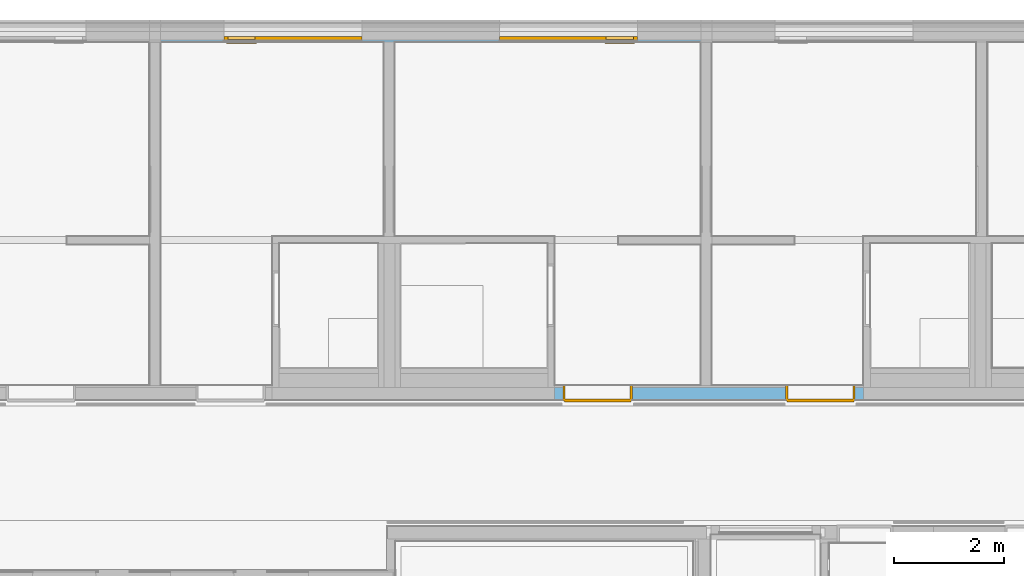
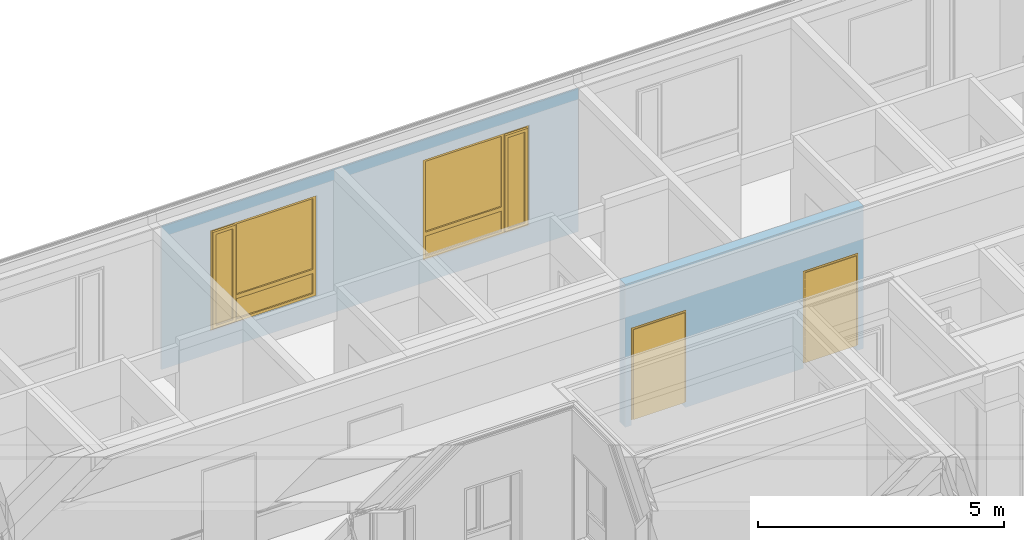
# One storey, part 144 of 222: 2 doors, 2 windows, 4 openings, plus 2 elements that do not belong to this part.
"""IFC4 building model written with IfcOpenShell, lengths in metres."""

from ifc_helpers import new_model, entity, si_unit, converted_unit, derived_unit, frame, frame_2d, origin, origin_with_axes, place, context, subcontext, project, spatial, polyline, rectangle, outline, extrude, closed_shell, open_shell, faceted_brep, surface_model, source, transform, mapped, material, type_object, element, fill, save


model = new_model("IFC4")

# Units and contexts
model_context = context("Model", 3, precision=1e-05, world=origin())
body_context = subcontext(model_context, "Body", "Model", "MODEL_VIEW")
ifc_project = project(units=[si_unit("LENGTHUNIT", "METRE"), si_unit("AREAUNIT", "SQUARE_METRE"), si_unit("VOLUMEUNIT", "CUBIC_METRE"), si_unit("MASSUNIT", "GRAM", prefix="KILO"), converted_unit("PLANEANGLEUNIT", "DEGREE", entity("IfcPlaneAngleMeasure", 0.0174532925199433), si_unit("PLANEANGLEUNIT", "RADIAN"), dimensions=[0, 0, 0, 0, 0, 0, 0]), derived_unit("THERMALTRANSMITTANCEUNIT", [(si_unit("POWERUNIT", "WATT"), 1), (si_unit("THERMODYNAMICTEMPERATUREUNIT", "KELVIN"), -1), (si_unit("LENGTHUNIT", "METRE"), -2)]), derived_unit("VOLUMETRICFLOWRATEUNIT", [(si_unit("LENGTHUNIT", "METRE"), 3), (converted_unit("TIMEUNIT", "hour", entity("IfcTimeMeasure", 3600.0), si_unit("TIMEUNIT", "SECOND"), dimensions=[0, 0, 1, 0, 0, 0, 0]), -1), (si_unit("LENGTHUNIT", "METRE"), -1)])], contexts=[model_context])

# Site, building, storey
site_placement = place(None, origin())
site = spatial("IfcSite", under=ifc_project, at=site_placement, Name="Psychiatrie Neubau Wunstorf", CompositionType="ELEMENT")
building_placement = place(site_placement, origin())
building = spatial("IfcBuilding", under=site, at=building_placement, Name="Neubau H2 Stationsgebäude", CompositionType="ELEMENT")
storey_placement = place(building_placement, frame((0.0, 0.0, 3.6)))
storey = spatial("IfcBuildingStorey", under=building, at=storey_placement, Name="H2 Ebene +1", CompositionType="ELEMENT", Elevation=3.6)

# Wall, openings, windows
ifc_material_1 = material(Name="WA-LB")
wall_1_placement = place(storey_placement, frame((86.1, 31.614, 0.0)))
wall_1 = element("IfcWall", 1, at=wall_1_placement, inside=storey, material=ifc_material_1, context=body_context, shape_type="SweptSolid", body=[
    extrude(rectangle(XDim=9.8, YDim=0.036, at=frame_2d((4.9, 0.018), x_axis=(1.0, 0.0))), origin_with_axes(), (0.0, 0.0, 1.0), 3.55),
])
opening_1_placement = place(wall_1_placement, frame((1.15, 0.0, 0.55), z_axis=(0.0, 1.0, 0.0), x_axis=(0.0, 0.0, 1.0)))
opening_1 = element("IfcOpeningElement", 2, at=opening_1_placement, cuts=wall_1, Name="Fensteröffnung", ObjectType="Opening", context=body_context, shape_type="SweptSolid", body=[
    extrude(outline(polyline([(2.5, 2.5), (2.5, 0.0), (0.0, 0.0), (0.0, 2.5), (2.5, 2.5)])), origin_with_axes(), (0.0, 0.0, 1.0), 0.036),
])
opening_2_placement = place(wall_1_placement, frame((6.15, 0.0, 0.55), z_axis=(0.0, 1.0, 0.0), x_axis=(0.0, 0.0, 1.0)))
opening_2 = element("IfcOpeningElement", 3, at=opening_2_placement, cuts=wall_1, Name="Fensteröffnung", ObjectType="Opening", context=body_context, shape_type="SweptSolid", body=[
    extrude(outline(polyline([(2.5, 2.5), (2.5, 0.0), (0.0, 0.0), (0.0, 2.5), (2.5, 2.5)])), origin_with_axes(), (0.0, 0.0, 1.0), 0.036),
])
shared_shape_1 = source(origin_with_axes(), body_context, "Body", "SurfaceModel", [
    surface_model("IfcShellBasedSurfaceModel", [(0.0, 0.0, 2.5), (0.07, 0.0, 2.5), (0.07, 0.0, 0.0), (0.0, 0.0, 0.0), (0.0, 0.0699999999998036, 0.0), (0.07, 0.0699999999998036, 0.0), (0.07, 0.0699999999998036, 2.5), (0.0, 0.0699999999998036, 2.5)], [closed_shell([[[0, 1, 2, 3]], [[4, 5, 6, 7]], [[3, 4, 7, 0]], [[2, 5, 4, 3]], [[1, 6, 5, 2]], [[0, 7, 6, 1]]], orient=[[False], [False], [False], [False], [False], [False]])]),
    surface_model("IfcShellBasedSurfaceModel", [(2.43, 0.0, 2.5), (2.5, 0.0, 2.5), (2.5, 0.0, 0.0), (2.43, 0.0, 0.0), (2.43, 0.0699999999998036, 0.0), (2.5, 0.0699999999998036, 0.0), (2.5, 0.0699999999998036, 2.5), (2.43, 0.0699999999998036, 2.5)], [closed_shell([[[0, 1, 2, 3]], [[4, 5, 6, 7]], [[3, 4, 7, 0]], [[2, 5, 4, 3]], [[1, 6, 5, 2]], [[0, 7, 6, 1]]], orient=[[False], [False], [False], [False], [False], [False]])]),
    surface_model("IfcShellBasedSurfaceModel", [(0.07, 0.0, 0.07), (2.43, 0.0, 0.07), (2.43, 0.0, 0.0), (0.07, 0.0, 0.0), (0.07, 0.0699999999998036, 0.0), (2.43, 0.0699999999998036, 0.0), (2.43, 0.0699999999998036, 0.07), (0.07, 0.0699999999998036, 0.07)], [closed_shell([[[0, 1, 2, 3]], [[4, 5, 6, 7]], [[3, 4, 7, 0]], [[2, 5, 4, 3]], [[1, 6, 5, 2]], [[0, 7, 6, 1]]], orient=[[False], [False], [False], [False], [False], [False]])]),
    surface_model("IfcShellBasedSurfaceModel", [(0.07, 0.0, 2.5), (2.43, 0.0, 2.5), (2.43, 0.0, 2.43), (0.07, 0.0, 2.43), (0.07, 0.0699999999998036, 2.43), (2.43, 0.0699999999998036, 2.43), (2.43, 0.0699999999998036, 2.5), (0.07, 0.0699999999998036, 2.5)], [closed_shell([[[0, 1, 2, 3]], [[4, 5, 6, 7]], [[3, 4, 7, 0]], [[2, 5, 4, 3]], [[1, 6, 5, 2]], [[0, 7, 6, 1]]], orient=[[False], [False], [False], [False], [False], [False]])]),
    surface_model("IfcShellBasedSurfaceModel", [(0.565714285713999, 0.0, 2.43), (0.635714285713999, 0.0, 2.43), (0.635714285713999, 0.0, 0.07), (0.565714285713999, 0.0, 0.07), (0.565714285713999, 0.0699999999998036, 0.07), (0.635714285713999, 0.0699999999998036, 0.07), (0.635714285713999, 0.0699999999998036, 2.43), (0.565714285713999, 0.0699999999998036, 2.43)], [closed_shell([[[0, 1, 2, 3]], [[4, 5, 6, 7]], [[3, 4, 7, 0]], [[2, 5, 4, 3]], [[1, 6, 5, 2]], [[0, 7, 6, 1]]], orient=[[False], [False], [False], [False], [False], [False]])]),
    surface_model("IfcShellBasedSurfaceModel", [(0.05, -0.05, 2.45), (0.12, -0.05, 2.45), (0.12, -0.05, 0.05), (0.05, -0.05, 0.05), (0.05, 0.0199999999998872, 0.05), (0.12, 0.0199999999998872, 0.05), (0.12, 0.0199999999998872, 2.45), (0.05, 0.0199999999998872, 2.45)], [closed_shell([[[0, 1, 2, 3]], [[4, 5, 6, 7]], [[3, 4, 7, 0]], [[2, 5, 4, 3]], [[1, 6, 5, 2]], [[0, 7, 6, 1]]], orient=[[False], [False], [False], [False], [False], [False]])]),
    surface_model("IfcShellBasedSurfaceModel", [(0.515714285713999, -0.05, 2.45), (0.585714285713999, -0.05, 2.45), (0.585714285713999, -0.05, 0.05), (0.515714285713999, -0.05, 0.05), (0.515714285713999, 0.0199999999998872, 0.05), (0.585714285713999, 0.0199999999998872, 0.05), (0.585714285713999, 0.0199999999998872, 2.45), (0.515714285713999, 0.0199999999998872, 2.45)], [closed_shell([[[0, 1, 2, 3]], [[4, 5, 6, 7]], [[3, 4, 7, 0]], [[2, 5, 4, 3]], [[1, 6, 5, 2]], [[0, 7, 6, 1]]], orient=[[False], [False], [False], [False], [False], [False]])]),
    surface_model("IfcShellBasedSurfaceModel", [(0.12, -0.05, 0.12), (0.515714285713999, -0.05, 0.12), (0.515714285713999, -0.05, 0.05), (0.12, -0.05, 0.05), (0.12, 0.0199999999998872, 0.05), (0.515714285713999, 0.0199999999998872, 0.05), (0.515714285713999, 0.0199999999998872, 0.12), (0.12, 0.0199999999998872, 0.12)], [closed_shell([[[0, 1, 2, 3]], [[4, 5, 6, 7]], [[3, 4, 7, 0]], [[2, 5, 4, 3]], [[1, 6, 5, 2]], [[0, 7, 6, 1]]], orient=[[False], [False], [False], [False], [False], [False]])]),
    surface_model("IfcShellBasedSurfaceModel", [(0.12, -0.05, 2.45), (0.515714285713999, -0.05, 2.45), (0.515714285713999, -0.05, 2.38), (0.12, -0.05, 2.38), (0.12, 0.0199999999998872, 2.38), (0.515714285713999, 0.0199999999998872, 2.38), (0.515714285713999, 0.0199999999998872, 2.45), (0.12, 0.0199999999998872, 2.45)], [closed_shell([[[0, 1, 2, 3]], [[4, 5, 6, 7]], [[3, 4, 7, 0]], [[2, 5, 4, 3]], [[1, 6, 5, 2]], [[0, 7, 6, 1]]], orient=[[False], [False], [False], [False], [False], [False]])]),
    surface_model("IfcShellBasedSurfaceModel", [(0.635714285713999, 0.0, 0.67), (2.43, 0.0, 0.67), (2.43, 0.0, 0.57), (0.635714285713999, 0.0, 0.57), (0.635714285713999, 0.0699999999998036, 0.57), (2.43, 0.0699999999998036, 0.57), (2.43, 0.0699999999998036, 0.67), (0.635714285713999, 0.0699999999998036, 0.67)], [closed_shell([[[0, 1, 2, 3]], [[4, 5, 6, 7]], [[3, 4, 7, 0]], [[2, 5, 4, 3]], [[1, 6, 5, 2]], [[0, 7, 6, 1]]], orient=[[False], [False], [False], [False], [False], [False]])]),
    surface_model("IfcShellBasedSurfaceModel", [(0.12, -0.0150000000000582, 0.12), (0.12, -0.0150000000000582, 2.38), (0.515714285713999, -0.0150000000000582, 2.38), (0.515714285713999, -0.0150000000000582, 0.12)], [open_shell([[[0, 1, 2, 3]]], orient=[[False]])]),
    surface_model("IfcShellBasedSurfaceModel", [(0.635714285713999, 0.0349999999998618, 0.07), (0.635714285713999, 0.0349999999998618, 0.57), (2.43, 0.0349999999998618, 0.57), (2.43, 0.0349999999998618, 0.07)], [open_shell([[[0, 1, 2, 3]]], orient=[[False]])]),
    surface_model("IfcShellBasedSurfaceModel", [(0.635714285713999, 0.0349999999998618, 0.67), (0.635714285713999, 0.0349999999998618, 2.43), (2.43, 0.0349999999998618, 2.43), (2.43, 0.0349999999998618, 0.67)], [open_shell([[[0, 1, 2, 3]]], orient=[[False]])]),
])
window_1_placement = place(opening_1_placement, frame((0.0, 0.0, 0.03), z_axis=(1.0, 0.0, 0.0), x_axis=(0.0, 1.0, 0.0)))
window_1 = element("IfcWindow", 4, at=window_1_placement, inside=storey, Name="Fenster", OverallHeight=2.5, OverallWidth=2.5, PartitioningType="USERDEFINED", PredefinedType="WINDOW", context=body_context, shape_type="MappedRepresentation", body=[
    mapped(shared_shape_1, transform((0.0, 0.0, 0.0), x_axis=(1.0, 0.0, 0.0), y_axis=(0.0, 1.0, 0.0), z_axis=(0.0, 0.0, 1.0), scale=1.0)),
])
fill(opening_1, window_1)
shared_shape_2 = source(origin_with_axes(), body_context, "Body", "SurfaceModel", [
    surface_model("IfcShellBasedSurfaceModel", [(2.5, 0.0, 2.5), (2.5, 0.0, 0.0), (2.43, 0.0, 0.0), (2.43, 0.0, 2.5), (2.5, 0.0699999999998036, 0.0), (2.5, 0.0699999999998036, 2.5), (2.43, 0.0699999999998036, 2.5), (2.43, 0.0699999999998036, 0.0)], [closed_shell([[[0, 1, 2, 3]], [[4, 5, 6, 7]], [[1, 0, 5, 4]], [[2, 1, 4, 7]], [[3, 2, 7, 6]], [[0, 3, 6, 5]]], orient=[[False], [False], [False], [False], [False], [False]])]),
    surface_model("IfcShellBasedSurfaceModel", [(0.07, 0.0, 2.5), (0.07, 0.0, 0.0), (0.0, 0.0, 0.0), (0.0, 0.0, 2.5), (0.07, 0.0699999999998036, 0.0), (0.07, 0.0699999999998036, 2.5), (0.0, 0.0699999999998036, 2.5), (0.0, 0.0699999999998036, 0.0)], [closed_shell([[[0, 1, 2, 3]], [[4, 5, 6, 7]], [[1, 0, 5, 4]], [[2, 1, 4, 7]], [[3, 2, 7, 6]], [[0, 3, 6, 5]]], orient=[[False], [False], [False], [False], [False], [False]])]),
    surface_model("IfcShellBasedSurfaceModel", [(2.43, 0.0, 0.07), (2.43, 0.0, 0.0), (0.07, 0.0, 0.0), (0.07, 0.0, 0.07), (2.43, 0.0699999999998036, 0.0), (2.43, 0.0699999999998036, 0.07), (0.07, 0.0699999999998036, 0.07), (0.07, 0.0699999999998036, 0.0)], [closed_shell([[[0, 1, 2, 3]], [[4, 5, 6, 7]], [[1, 0, 5, 4]], [[2, 1, 4, 7]], [[3, 2, 7, 6]], [[0, 3, 6, 5]]], orient=[[False], [False], [False], [False], [False], [False]])]),
    surface_model("IfcShellBasedSurfaceModel", [(2.43, 0.0, 2.5), (2.43, 0.0, 2.43), (0.07, 0.0, 2.43), (0.07, 0.0, 2.5), (2.43, 0.0699999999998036, 2.43), (2.43, 0.0699999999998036, 2.5), (0.07, 0.0699999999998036, 2.5), (0.07, 0.0699999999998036, 2.43)], [closed_shell([[[0, 1, 2, 3]], [[4, 5, 6, 7]], [[1, 0, 5, 4]], [[2, 1, 4, 7]], [[3, 2, 7, 6]], [[0, 3, 6, 5]]], orient=[[False], [False], [False], [False], [False], [False]])]),
    surface_model("IfcShellBasedSurfaceModel", [(1.934285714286, 0.0, 2.43), (1.934285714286, 0.0, 0.07), (1.864285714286, 0.0, 0.07), (1.864285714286, 0.0, 2.43), (1.934285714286, 0.0699999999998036, 0.07), (1.934285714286, 0.0699999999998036, 2.43), (1.864285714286, 0.0699999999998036, 2.43), (1.864285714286, 0.0699999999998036, 0.07)], [closed_shell([[[0, 1, 2, 3]], [[4, 5, 6, 7]], [[1, 0, 5, 4]], [[2, 1, 4, 7]], [[3, 2, 7, 6]], [[0, 3, 6, 5]]], orient=[[False], [False], [False], [False], [False], [False]])]),
    surface_model("IfcShellBasedSurfaceModel", [(2.45, -0.05, 2.45), (2.45, -0.05, 0.05), (2.38, -0.05, 0.05), (2.38, -0.05, 2.45), (2.45, 0.0199999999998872, 0.05), (2.45, 0.0199999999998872, 2.45), (2.38, 0.0199999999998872, 2.45), (2.38, 0.0199999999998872, 0.05)], [closed_shell([[[0, 1, 2, 3]], [[4, 5, 6, 7]], [[1, 0, 5, 4]], [[2, 1, 4, 7]], [[3, 2, 7, 6]], [[0, 3, 6, 5]]], orient=[[False], [False], [False], [False], [False], [False]])]),
    surface_model("IfcShellBasedSurfaceModel", [(1.984285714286, -0.05, 2.45), (1.984285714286, -0.05, 0.05), (1.914285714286, -0.05, 0.05), (1.914285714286, -0.05, 2.45), (1.984285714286, 0.0199999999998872, 0.05), (1.984285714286, 0.0199999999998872, 2.45), (1.914285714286, 0.0199999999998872, 2.45), (1.914285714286, 0.0199999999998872, 0.05)], [closed_shell([[[0, 1, 2, 3]], [[4, 5, 6, 7]], [[1, 0, 5, 4]], [[2, 1, 4, 7]], [[3, 2, 7, 6]], [[0, 3, 6, 5]]], orient=[[False], [False], [False], [False], [False], [False]])]),
    surface_model("IfcShellBasedSurfaceModel", [(2.38, -0.05, 0.12), (2.38, -0.05, 0.05), (1.984285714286, -0.05, 0.05), (1.984285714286, -0.05, 0.12), (2.38, 0.0199999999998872, 0.05), (2.38, 0.0199999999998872, 0.12), (1.984285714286, 0.0199999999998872, 0.12), (1.984285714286, 0.0199999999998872, 0.05)], [closed_shell([[[0, 1, 2, 3]], [[4, 5, 6, 7]], [[1, 0, 5, 4]], [[2, 1, 4, 7]], [[3, 2, 7, 6]], [[0, 3, 6, 5]]], orient=[[False], [False], [False], [False], [False], [False]])]),
    surface_model("IfcShellBasedSurfaceModel", [(2.38, -0.05, 2.45), (2.38, -0.05, 2.38), (1.984285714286, -0.05, 2.38), (1.984285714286, -0.05, 2.45), (2.38, 0.0199999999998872, 2.38), (2.38, 0.0199999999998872, 2.45), (1.984285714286, 0.0199999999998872, 2.45), (1.984285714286, 0.0199999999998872, 2.38)], [closed_shell([[[0, 1, 2, 3]], [[4, 5, 6, 7]], [[1, 0, 5, 4]], [[2, 1, 4, 7]], [[3, 2, 7, 6]], [[0, 3, 6, 5]]], orient=[[False], [False], [False], [False], [False], [False]])]),
    surface_model("IfcShellBasedSurfaceModel", [(1.864285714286, 0.0, 0.67), (1.864285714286, 0.0, 0.57), (0.07, 0.0, 0.57), (0.07, 0.0, 0.67), (1.864285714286, 0.0699999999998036, 0.57), (1.864285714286, 0.0699999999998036, 0.67), (0.07, 0.0699999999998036, 0.67), (0.07, 0.0699999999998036, 0.57)], [closed_shell([[[0, 1, 2, 3]], [[4, 5, 6, 7]], [[1, 0, 5, 4]], [[2, 1, 4, 7]], [[3, 2, 7, 6]], [[0, 3, 6, 5]]], orient=[[False], [False], [False], [False], [False], [False]])]),
    surface_model("IfcShellBasedSurfaceModel", [(2.38, -0.0150000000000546, 0.12), (1.984285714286, -0.0150000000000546, 0.12), (1.984285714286, -0.0150000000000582, 2.38), (2.38, -0.0150000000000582, 2.38)], [open_shell([[[0, 1, 2, 3]]], orient=[[False]])]),
    surface_model("IfcShellBasedSurfaceModel", [(1.864285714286, 0.0349999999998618, 0.07), (0.07, 0.0349999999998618, 0.07), (0.07, 0.0349999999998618, 0.57), (1.864285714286, 0.0349999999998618, 0.57)], [open_shell([[[0, 1, 2, 3]]], orient=[[False]])]),
    surface_model("IfcShellBasedSurfaceModel", [(1.864285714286, 0.0349999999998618, 0.67), (0.07, 0.0349999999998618, 0.67), (0.07, 0.0349999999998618, 2.43), (1.864285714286, 0.0349999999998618, 2.43)], [open_shell([[[0, 1, 2, 3]]], orient=[[False]])]),
])
window_2_placement = place(opening_2_placement, frame((0.0, 0.0, 0.03), z_axis=(1.0, 0.0, 0.0), x_axis=(0.0, 1.0, 0.0)))
window_2 = element("IfcWindow", 5, at=window_2_placement, inside=storey, Name="Fenster", OverallHeight=2.5, OverallWidth=2.5, PartitioningType="USERDEFINED", PredefinedType="WINDOW", context=body_context, shape_type="MappedRepresentation", body=[
    mapped(shared_shape_2, transform((0.0, 0.0, 0.0), x_axis=(1.0, 0.0, 0.0), y_axis=(0.0, 1.0, 0.0), z_axis=(0.0, 0.0, 1.0), scale=1.0)),
])
fill(opening_2, window_2)

# Wall, openings, doors
ifc_material_2 = material(Name="WI-HW 60")
wall_2_placement = place(storey_placement, frame((93.25, 25.1175, 0.0)))
wall_2 = element("IfcWall", 6, at=wall_2_placement, inside=storey, material=ifc_material_2, context=body_context, shape_type="SweptSolid", body=[
    extrude(rectangle(XDim=5.60000000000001, YDim=0.232, at=frame_2d((2.80000000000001, 0.116), x_axis=(1.0, 0.0))), origin_with_axes(), (0.0, 0.0, 1.0), 3.55),
])
opening_3_placement = place(wall_2_placement, frame((0.15, 0.0, 0.0), z_axis=(0.0, 1.0, 0.0), x_axis=(0.0, 0.0, 1.0)))
opening_3 = element("IfcOpeningElement", 7, at=opening_3_placement, cuts=wall_2, Name="Türöffnung", ObjectType="Opening", context=body_context, shape_type="SweptSolid", body=[
    extrude(outline(polyline([(2.41, 1.26), (2.41, 0.0), (0.0, 0.0), (0.0, 1.26), (2.41, 1.26)])), origin_with_axes(), (0.0, 0.0, 1.0), 0.232),
])
opening_4_placement = place(wall_2_placement, frame((4.19000000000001, 0.0, 0.0), z_axis=(0.0, 1.0, 0.0), x_axis=(0.0, 0.0, 1.0)))
opening_4 = element("IfcOpeningElement", 8, at=opening_4_placement, cuts=wall_2, Name="Türöffnung", ObjectType="Opening", context=body_context, shape_type="SweptSolid", body=[
    extrude(outline(polyline([(2.41, 1.26), (2.41, 0.0), (0.0, 0.0), (0.0, 1.26), (2.41, 1.26)])), origin_with_axes(), (0.0, 0.0, 1.0), 0.232000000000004),
])
ifc_material_3 = material(Name="TI-2F-UZ-D")
door_type_1 = type_object("IfcDoorType", Name="SMT", OperationType="DOUBLE_DOOR_SINGLE_SWING", ParameterTakesPrecedence=False, PredefinedType="DOOR")
shared_shape_3 = source(origin_with_axes(), body_context, "Body", "Brep", [
    faceted_brep([(0.0, -0.0150000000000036, 2.41), (0.04, -0.0150000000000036, 2.41), (0.04, -0.0150000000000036, 0.15), (0.0, -0.0150000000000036, 0.15), (0.0, 0.286999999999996, 0.15), (0.04, 0.286999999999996, 0.15), (0.04, 0.286999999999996, 2.41), (0.0, 0.286999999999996, 2.41)], [[[0, 1, 2, 3]], [[4, 5, 6, 7]], [[3, 4, 7, 0]], [[2, 5, 4, 3]], [[1, 6, 5, 2]], [[0, 7, 6, 1]]], orient=[[False], [False], [False], [False], [False], [False]]),
    faceted_brep([(0.0, -0.0150000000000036, 2.425), (0.0, -0.0150000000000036, 0.15), (-0.015, -0.0150000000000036, 0.15), (-0.015, -0.0150000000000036, 2.425), (0.0, 0.0, 0.15), (0.0, 0.0, 2.425), (-0.015, 0.0, 2.425), (-0.015, 0.0, 0.15)], [[[0, 1, 2, 3]], [[4, 5, 6, 7]], [[1, 0, 5, 4]], [[2, 1, 4, 7]], [[3, 2, 7, 6]], [[0, 3, 6, 5]]], orient=[[False], [False], [False], [False], [False], [False]]),
    faceted_brep([(0.0, 0.271999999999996, 2.425), (0.0, 0.271999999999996, 0.15), (-0.015, 0.271999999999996, 0.15), (-0.015, 0.271999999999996, 2.425), (0.0, 0.286999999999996, 0.15), (0.0, 0.286999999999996, 2.425), (-0.015, 0.286999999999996, 2.425), (-0.015, 0.286999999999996, 0.15)], [[[0, 1, 2, 3]], [[4, 5, 6, 7]], [[1, 0, 5, 4]], [[2, 1, 4, 7]], [[3, 2, 7, 6]], [[0, 3, 6, 5]]], orient=[[False], [False], [False], [False], [False], [False]]),
    faceted_brep([(1.22, -0.0150000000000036, 2.41), (1.26, -0.0150000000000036, 2.41), (1.26, -0.0150000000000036, 0.15), (1.22, -0.0150000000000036, 0.15), (1.22, 0.286999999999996, 0.15), (1.26, 0.286999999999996, 0.15), (1.26, 0.286999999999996, 2.41), (1.22, 0.286999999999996, 2.41)], [[[0, 1, 2, 3]], [[4, 5, 6, 7]], [[3, 4, 7, 0]], [[2, 5, 4, 3]], [[1, 6, 5, 2]], [[0, 7, 6, 1]]], orient=[[False], [False], [False], [False], [False], [False]]),
    faceted_brep([(1.26, -0.0150000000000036, 2.425), (1.275, -0.0150000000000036, 2.425), (1.275, -0.0150000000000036, 0.15), (1.26, -0.0150000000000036, 0.15), (1.26, 0.0, 0.15), (1.275, 0.0, 0.15), (1.275, 0.0, 2.425), (1.26, 0.0, 2.425)], [[[0, 1, 2, 3]], [[4, 5, 6, 7]], [[3, 4, 7, 0]], [[2, 5, 4, 3]], [[1, 6, 5, 2]], [[0, 7, 6, 1]]], orient=[[False], [False], [False], [False], [False], [False]]),
    faceted_brep([(1.26, 0.271999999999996, 2.425), (1.275, 0.271999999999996, 2.425), (1.275, 0.271999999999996, 0.15), (1.26, 0.271999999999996, 0.15), (1.26, 0.286999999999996, 0.15), (1.275, 0.286999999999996, 0.15), (1.275, 0.286999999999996, 2.425), (1.26, 0.286999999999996, 2.425)], [[[0, 1, 2, 3]], [[4, 5, 6, 7]], [[3, 4, 7, 0]], [[2, 5, 4, 3]], [[1, 6, 5, 2]], [[0, 7, 6, 1]]], orient=[[False], [False], [False], [False], [False], [False]]),
    faceted_brep([(0.04, -0.0150000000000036, 2.41), (1.22, -0.0150000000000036, 2.41), (1.22, -0.0150000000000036, 2.37), (0.04, -0.0150000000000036, 2.37), (0.04, 0.286999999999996, 2.37), (1.22, 0.286999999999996, 2.37), (1.22, 0.286999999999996, 2.41), (0.04, 0.286999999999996, 2.41)], [[[0, 1, 2, 3]], [[4, 5, 6, 7]], [[3, 4, 7, 0]], [[2, 5, 4, 3]], [[1, 6, 5, 2]], [[0, 7, 6, 1]]], orient=[[False], [False], [False], [False], [False], [False]]),
    faceted_brep([(0.0, -0.0150000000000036, 2.425), (1.26, -0.0150000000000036, 2.425), (1.26, -0.0150000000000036, 2.41), (0.0, -0.0150000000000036, 2.41), (0.0, 0.0, 2.41), (1.26, 0.0, 2.41), (1.26, 0.0, 2.425), (0.0, 0.0, 2.425)], [[[0, 1, 2, 3]], [[4, 5, 6, 7]], [[3, 4, 7, 0]], [[2, 5, 4, 3]], [[1, 6, 5, 2]], [[0, 7, 6, 1]]], orient=[[False], [False], [False], [False], [False], [False]]),
    faceted_brep([(0.0, 0.271999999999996, 2.425), (1.26, 0.271999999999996, 2.425), (1.26, 0.271999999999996, 2.41), (0.0, 0.271999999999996, 2.41), (0.0, 0.286999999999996, 2.41), (1.26, 0.286999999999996, 2.41), (1.26, 0.286999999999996, 2.425), (0.0, 0.286999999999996, 2.425)], [[[0, 1, 2, 3]], [[4, 5, 6, 7]], [[3, 4, 7, 0]], [[2, 5, 4, 3]], [[1, 6, 5, 2]], [[0, 7, 6, 1]]], orient=[[False], [False], [False], [False], [False], [False]]),
    faceted_brep([(0.025, 0.251999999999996, 2.385), (0.925, 0.251999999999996, 2.385), (0.925, 0.251999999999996, 0.15), (0.025, 0.251999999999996, 0.15), (0.025, 0.301999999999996, 0.15), (0.925, 0.301999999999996, 0.15), (0.925, 0.301999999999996, 2.385), (0.025, 0.301999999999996, 2.385)], [[[0, 1, 2, 3]], [[4, 5, 6, 7]], [[3, 4, 7, 0]], [[2, 5, 4, 3]], [[1, 6, 5, 2]], [[0, 7, 6, 1]]], orient=[[False], [False], [False], [False], [False], [False]]),
    faceted_brep([(0.926, 0.251999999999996, 2.385), (1.235, 0.251999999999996, 2.385), (1.235, 0.251999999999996, 0.15), (0.926, 0.251999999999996, 0.15), (0.926, 0.301999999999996, 0.15), (1.235, 0.301999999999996, 0.15), (1.235, 0.301999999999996, 2.385), (0.926, 0.301999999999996, 2.385)], [[[0, 1, 2, 3]], [[4, 5, 6, 7]], [[3, 4, 7, 0]], [[2, 5, 4, 3]], [[1, 6, 5, 2]], [[0, 7, 6, 1]]], orient=[[False], [False], [False], [False], [False], [False]]),
])
door_1_placement = place(opening_3_placement, frame((0.0, 1.26, 0.271999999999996), z_axis=(1.0, 0.0, 0.0), x_axis=(0.0, -1.0, 0.0)))
door_1 = element("IfcDoor", 9, at=door_1_placement, inside=storey, type_object=door_type_1, material=ifc_material_3, Name="SMT", OverallHeight=2.41, OverallWidth=1.26, context=body_context, shape_type="MappedRepresentation", body=[
    mapped(shared_shape_3, transform((0.0, 0.0, 0.0), x_axis=(1.0, 0.0, 0.0), y_axis=(0.0, 1.0, 0.0), z_axis=(0.0, 0.0, 1.0), scale=1.0)),
])
fill(opening_3, door_1)
ifc_material_4 = material(Name="TI-2F-UZ-D")
door_type_2 = type_object("IfcDoorType", Name="SMT", OperationType="DOUBLE_DOOR_SINGLE_SWING", ParameterTakesPrecedence=False, PredefinedType="DOOR")
shared_shape_4 = source(origin_with_axes(), body_context, "Body", "Brep", [
    faceted_brep([(1.26, -0.0150000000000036, 2.41), (1.26, -0.0150000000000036, 0.15), (1.22, -0.0150000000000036, 0.15), (1.22, -0.0150000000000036, 2.41), (1.26, 0.287, 0.15), (1.26, 0.287, 2.41), (1.22, 0.287, 2.41), (1.22, 0.287, 0.15)], [[[0, 1, 2, 3]], [[4, 5, 6, 7]], [[1, 0, 5, 4]], [[2, 1, 4, 7]], [[3, 2, 7, 6]], [[0, 3, 6, 5]]], orient=[[False], [False], [False], [False], [False], [False]]),
    faceted_brep([(1.26, -0.0150000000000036, 2.425), (1.275, -0.0150000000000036, 2.425), (1.275, -0.0150000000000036, 0.15), (1.26, -0.0150000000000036, 0.15), (1.26, 0.0, 0.15), (1.275, 0.0, 0.15), (1.275, 0.0, 2.425), (1.26, 0.0, 2.425)], [[[0, 1, 2, 3]], [[4, 5, 6, 7]], [[3, 4, 7, 0]], [[2, 5, 4, 3]], [[1, 6, 5, 2]], [[0, 7, 6, 1]]], orient=[[False], [False], [False], [False], [False], [False]]),
    faceted_brep([(1.26, 0.272, 2.425), (1.275, 0.272, 2.425), (1.275, 0.272, 0.15), (1.26, 0.272, 0.15), (1.26, 0.287, 0.15), (1.275, 0.287, 0.15), (1.275, 0.287, 2.425), (1.26, 0.287, 2.425)], [[[0, 1, 2, 3]], [[4, 5, 6, 7]], [[3, 4, 7, 0]], [[2, 5, 4, 3]], [[1, 6, 5, 2]], [[0, 7, 6, 1]]], orient=[[False], [False], [False], [False], [False], [False]]),
    faceted_brep([(0.04, -0.0150000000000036, 2.41), (0.04, -0.0150000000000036, 0.15), (0.0, -0.0150000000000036, 0.15), (0.0, -0.0150000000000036, 2.41), (0.04, 0.287, 0.15), (0.04, 0.287, 2.41), (0.0, 0.287, 2.41), (0.0, 0.287, 0.15)], [[[0, 1, 2, 3]], [[4, 5, 6, 7]], [[1, 0, 5, 4]], [[2, 1, 4, 7]], [[3, 2, 7, 6]], [[0, 3, 6, 5]]], orient=[[False], [False], [False], [False], [False], [False]]),
    faceted_brep([(0.0, -0.0150000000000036, 2.425), (0.0, -0.0150000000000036, 0.15), (-0.015, -0.0150000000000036, 0.15), (-0.015, -0.0150000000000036, 2.425), (0.0, 0.0, 0.15), (0.0, 0.0, 2.425), (-0.015, 0.0, 2.425), (-0.015, 0.0, 0.15)], [[[0, 1, 2, 3]], [[4, 5, 6, 7]], [[1, 0, 5, 4]], [[2, 1, 4, 7]], [[3, 2, 7, 6]], [[0, 3, 6, 5]]], orient=[[False], [False], [False], [False], [False], [False]]),
    faceted_brep([(0.0, 0.272, 2.425), (0.0, 0.272, 0.15), (-0.015, 0.272, 0.15), (-0.015, 0.272, 2.425), (0.0, 0.287, 0.15), (0.0, 0.287, 2.425), (-0.015, 0.287, 2.425), (-0.015, 0.287, 0.15)], [[[0, 1, 2, 3]], [[4, 5, 6, 7]], [[1, 0, 5, 4]], [[2, 1, 4, 7]], [[3, 2, 7, 6]], [[0, 3, 6, 5]]], orient=[[False], [False], [False], [False], [False], [False]]),
    faceted_brep([(1.22, -0.0150000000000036, 2.41), (1.22, -0.0150000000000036, 2.37), (0.04, -0.0150000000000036, 2.37), (0.04, -0.0150000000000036, 2.41), (1.22, 0.287, 2.37), (1.22, 0.287, 2.41), (0.04, 0.287, 2.41), (0.04, 0.287, 2.37)], [[[0, 1, 2, 3]], [[4, 5, 6, 7]], [[1, 0, 5, 4]], [[2, 1, 4, 7]], [[3, 2, 7, 6]], [[0, 3, 6, 5]]], orient=[[False], [False], [False], [False], [False], [False]]),
    faceted_brep([(1.26, -0.0150000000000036, 2.425), (1.26, -0.0150000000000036, 2.41), (0.0, -0.0150000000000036, 2.41), (0.0, -0.0150000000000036, 2.425), (1.26, 0.0, 2.41), (1.26, 0.0, 2.425), (0.0, 0.0, 2.425), (0.0, 0.0, 2.41)], [[[0, 1, 2, 3]], [[4, 5, 6, 7]], [[1, 0, 5, 4]], [[2, 1, 4, 7]], [[3, 2, 7, 6]], [[0, 3, 6, 5]]], orient=[[False], [False], [False], [False], [False], [False]]),
    faceted_brep([(1.26, 0.272, 2.425), (1.26, 0.272, 2.41), (0.0, 0.272, 2.41), (0.0, 0.272, 2.425), (1.26, 0.287, 2.41), (1.26, 0.287, 2.425), (0.0, 0.287, 2.425), (0.0, 0.287, 2.41)], [[[0, 1, 2, 3]], [[4, 5, 6, 7]], [[1, 0, 5, 4]], [[2, 1, 4, 7]], [[3, 2, 7, 6]], [[0, 3, 6, 5]]], orient=[[False], [False], [False], [False], [False], [False]]),
    faceted_brep([(1.235, 0.252, 2.385), (1.235, 0.252, 0.15), (0.335, 0.252, 0.15), (0.335, 0.252, 2.385), (1.235, 0.302, 0.15), (1.235, 0.302, 2.385), (0.335, 0.302, 2.385), (0.335, 0.302, 0.15)], [[[0, 1, 2, 3]], [[4, 5, 6, 7]], [[1, 0, 5, 4]], [[2, 1, 4, 7]], [[3, 2, 7, 6]], [[0, 3, 6, 5]]], orient=[[False], [False], [False], [False], [False], [False]]),
    faceted_brep([(0.334, 0.252, 2.385), (0.334, 0.252, 0.15), (0.025, 0.252, 0.15), (0.025, 0.252, 2.385), (0.334, 0.302, 0.15), (0.334, 0.302, 2.385), (0.025, 0.302, 2.385), (0.025, 0.302, 0.15)], [[[0, 1, 2, 3]], [[4, 5, 6, 7]], [[1, 0, 5, 4]], [[2, 1, 4, 7]], [[3, 2, 7, 6]], [[0, 3, 6, 5]]], orient=[[False], [False], [False], [False], [False], [False]]),
])
door_2_placement = place(opening_4_placement, frame((0.0, 1.26, 0.272), z_axis=(1.0, 0.0, 0.0), x_axis=(0.0, -1.0, 0.0)))
door_2 = element("IfcDoor", 10, at=door_2_placement, inside=storey, type_object=door_type_2, material=ifc_material_4, Name="SMT", OverallHeight=2.41, OverallWidth=1.26, context=body_context, shape_type="MappedRepresentation", body=[
    mapped(shared_shape_4, transform((0.0, 0.0, 0.0), x_axis=(1.0, 0.0, 0.0), y_axis=(0.0, 1.0, 0.0), z_axis=(0.0, 0.0, 1.0), scale=1.0)),
])
fill(opening_4, door_2)

save(model, "model.ifc")
